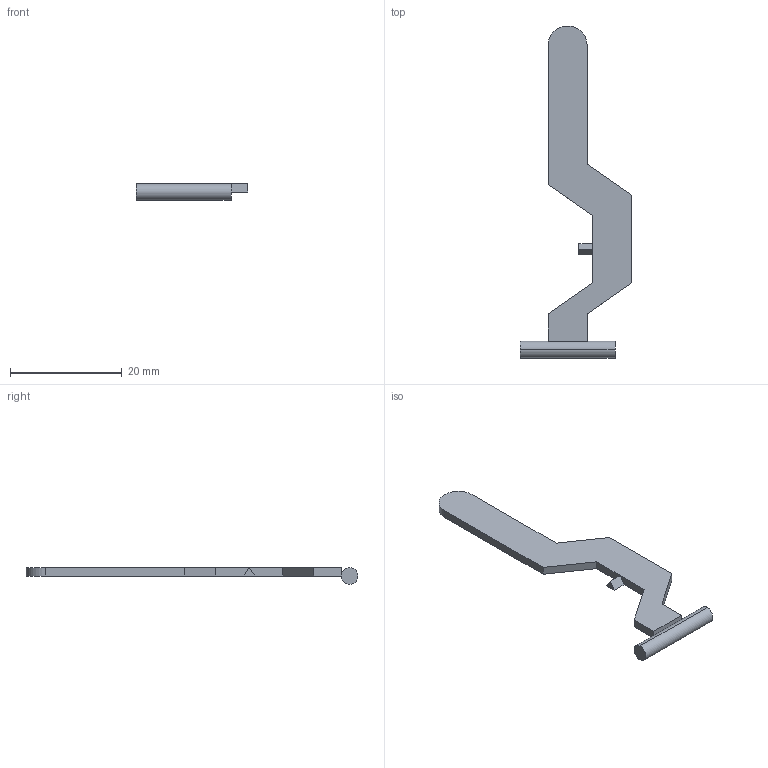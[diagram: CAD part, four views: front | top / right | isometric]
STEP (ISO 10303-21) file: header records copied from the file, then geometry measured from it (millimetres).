
FILE_DESCRIPTION(('STEP AP214'),'1');
FILE_NAME('tmp0.STEP','2026-08-22T15:36:21',(' '),(' '),'Spatial InterOp 3D',' ',' ');
FILE_SCHEMA(('AUTOMOTIVE_DESIGN { 1 0 10303 214 1 1 1 1 }'));
Length unit declared in the file: millimetre
Products named in the file (1): 1
Bounding box: 20 x 59.5 x 3 mm (x, y, z)
Volume: 753.5 mm3; surface area: 1239 mm2
Topology: 2 solids, 2 shells, 23 faces, 55 edges, 36 vertices
Faces by surface type: plane 19, cylinder 4
Entity records: 698 total; most frequent: CARTESIAN_POINT 116, DIRECTION 113, ORIENTED_EDGE 110, EDGE_CURVE 55, LINE 47, VECTOR 47, VERTEX_POINT 36, AXIS2_PLACEMENT_3D 33
